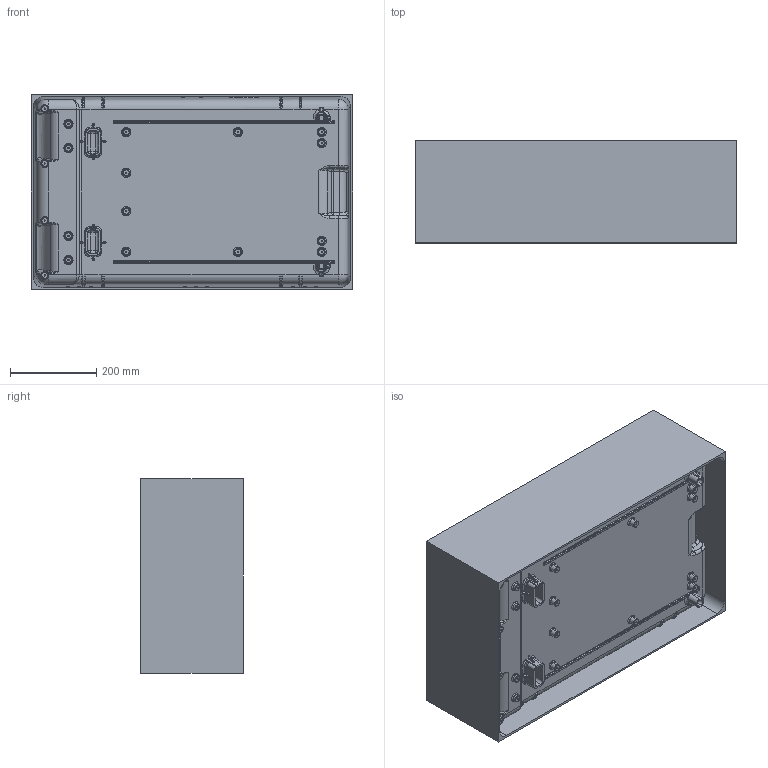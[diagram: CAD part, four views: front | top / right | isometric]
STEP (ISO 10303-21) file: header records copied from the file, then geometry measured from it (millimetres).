
FILE_DESCRIPTION (( 'STEP AP214' ), '1' );
FILE_NAME ('1671 BOTTOM.STEP', '2016-03-01T23:35:46', ( '' ), ( '' ), 'SwSTEP 2.0', 'SolidWorks 2016', '' );
FILE_SCHEMA (( 'AUTOMOTIVE_DESIGN' ));
Products named in the file (1): 1671 BOTTOM
Bounding box: 744.21 x 236.22 x 451.1 mm (x, y, z)
Surface area: 2580708.3 mm2 (no closed solid volume)
Topology: 0 solids, 1 shells, 1699 faces, 4219 edges, 2515 vertices
Faces by surface type: cylinder 596, bspline 496, plane 363, torus 128, cone 88, sphere 28
Entity records: 65327 total; most frequent: CARTESIAN_POINT 30006, ORIENTED_EDGE 8358, DIRECTION 6479, EDGE_CURVE 4179, VERTEX_POINT 2515, AXIS2_PLACEMENT_3D 2459, EDGE_LOOP 1744, FACE_OUTER_BOUND 1704
